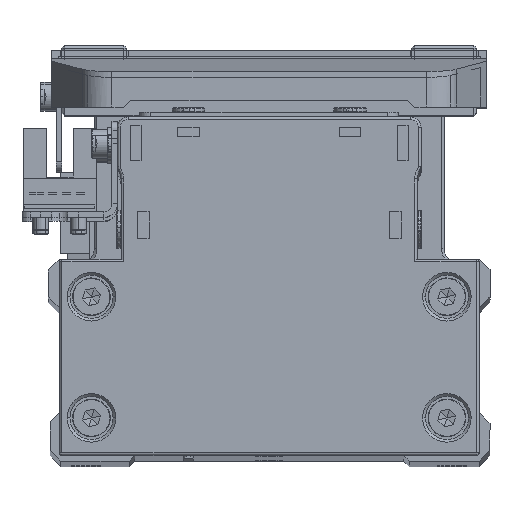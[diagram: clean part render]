
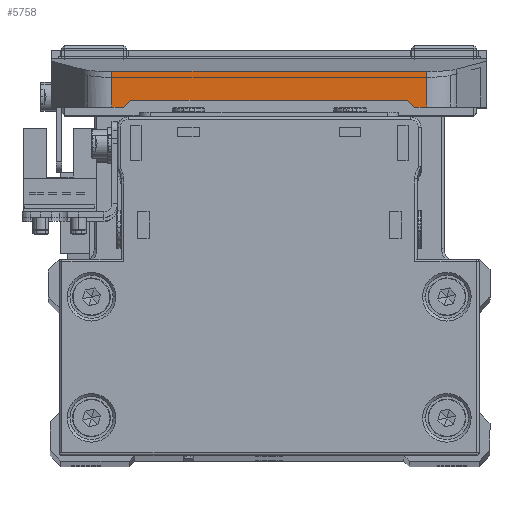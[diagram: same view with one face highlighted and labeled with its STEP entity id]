
A CAD part, top view. The second image highlights one B-rep face of the part: STEP entity #5758.
In plain terms, the highlighted planar face has unit normal (0, 0, 1) as drawn and (-1, 0, 0) by its records, which use the part's own axes.
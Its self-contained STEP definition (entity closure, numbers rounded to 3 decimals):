
#204 = CARTESIAN_POINT ( 'NONE',  ( -67.5, 9.3, 25.5 ) ) ;
#441 = VERTEX_POINT ( 'NONE', #26811 ) ;
#967 = DIRECTION ( 'NONE',  ( 0., 0., -1. ) ) ;
#1097 = VECTOR ( 'NONE', #17939, 1000. ) ;
#1196 = VERTEX_POINT ( 'NONE', #25360 ) ;
#2357 = CARTESIAN_POINT ( 'NONE',  ( -67.5, 10.6, -29.225 ) ) ;
#2700 = ORIENTED_EDGE ( 'NONE', *, *, #30843, .T. ) ;
#2823 = LINE ( 'NONE', #14721, #28324 ) ;
#3047 = AXIS2_PLACEMENT_3D ( 'NONE', #6695, #18614, #30552 ) ;
#3877 = DIRECTION ( 'NONE',  ( 0., 0., -1. ) ) ;
#5758 = ADVANCED_FACE ( 'NONE', ( #21551 ), #33464, .F. ) ;
#6015 = CARTESIAN_POINT ( 'NONE',  ( -67.5, 10.6, 40.4 ) ) ;
#6695 = CARTESIAN_POINT ( 'NONE',  ( -67.5, 10.6, 40.4 ) ) ;
#7091 = LINE ( 'NONE', #19009, #19080 ) ;
#7229 = VERTEX_POINT ( 'NONE', #9016 ) ;
#7268 = VECTOR ( 'NONE', #967, 1000. ) ;
#8303 = VECTOR ( 'NONE', #36758, 1000. ) ;
#9016 = CARTESIAN_POINT ( 'NONE',  ( -67.5, 10.6, -27. ) ) ;
#9466 = DIRECTION ( 'NONE',  ( 0., 0.655, -0.756 ) ) ;
#9841 = EDGE_CURVE ( 'NONE', #29204, #7229, #24317, .T. ) ;
#9998 = EDGE_CURVE ( 'NONE', #1196, #20847, #7091, .T. ) ;
#11992 = VERTEX_POINT ( 'NONE', #2357 ) ;
#12914 = LINE ( 'NONE', #24854, #8303 ) ;
#13701 = CARTESIAN_POINT ( 'NONE',  ( -67.5, 4., -29.225 ) ) ;
#14055 = LINE ( 'NONE', #25985, #34536 ) ;
#14721 = CARTESIAN_POINT ( 'NONE',  ( -67.5, 4., -29.225 ) ) ;
#15809 = LINE ( 'NONE', #27736, #7268 ) ;
#17305 = VECTOR ( 'NONE', #3877, 1000. ) ;
#17835 = VECTOR ( 'NONE', #9466, 1000. ) ;
#17939 = DIRECTION ( 'NONE',  ( 0., 0., -1. ) ) ;
#18607 = EDGE_CURVE ( 'NONE', #11992, #26806, #2823, .T. ) ;
#18614 = DIRECTION ( 'NONE',  ( 1., 0., 0. ) ) ;
#18705 = LINE ( 'NONE', #30645, #17305 ) ;
#19009 = CARTESIAN_POINT ( 'NONE',  ( -67.5, 10.6, 29.225 ) ) ;
#19080 = VECTOR ( 'NONE', #30943, 1000. ) ;
#19441 = ORIENTED_EDGE ( 'NONE', *, *, #9841, .T. ) ;
#20847 = VERTEX_POINT ( 'NONE', #38149 ) ;
#20980 = ORIENTED_EDGE ( 'NONE', *, *, #18607, .T. ) ;
#21188 = ORIENTED_EDGE ( 'NONE', *, *, #9998, .T. ) ;
#21551 = FACE_OUTER_BOUND ( 'NONE', #35887, .T. ) ;
#24002 = ORIENTED_EDGE ( 'NONE', *, *, #28780, .T. ) ;
#24317 = LINE ( 'NONE', #36227, #17835 ) ;
#24854 = CARTESIAN_POINT ( 'NONE',  ( -67.5, 9.3, 25.5 ) ) ;
#25360 = CARTESIAN_POINT ( 'NONE',  ( -67.5, 4., 29.225 ) ) ;
#25985 = CARTESIAN_POINT ( 'NONE',  ( -67.5, 10.6, 27. ) ) ;
#26659 = DIRECTION ( 'NONE',  ( 0., -1., 0. ) ) ;
#26806 = VERTEX_POINT ( 'NONE', #13701 ) ;
#26811 = CARTESIAN_POINT ( 'NONE',  ( -67.5, 10.6, 27. ) ) ;
#27736 = CARTESIAN_POINT ( 'NONE',  ( -67.5, 10.6, 40.4 ) ) ;
#28324 = VECTOR ( 'NONE', #26659, 1000. ) ;
#28780 = EDGE_CURVE ( 'NONE', #7229, #11992, #32784, .T. ) ;
#28919 = EDGE_CURVE ( 'NONE', #1196, #26806, #18705, .T. ) ;
#29204 = VERTEX_POINT ( 'NONE', #35283 ) ;
#29433 = ORIENTED_EDGE ( 'NONE', *, *, #28919, .F. ) ;
#30552 = DIRECTION ( 'NONE',  ( 0., 0., -1. ) ) ;
#30643 = EDGE_CURVE ( 'NONE', #34967, #29204, #12914, .T. ) ;
#30645 = CARTESIAN_POINT ( 'NONE',  ( -67.5, 4., 40.4 ) ) ;
#30843 = EDGE_CURVE ( 'NONE', #441, #34967, #14055, .T. ) ;
#30943 = DIRECTION ( 'NONE',  ( 0., 1., 0. ) ) ;
#31685 = ORIENTED_EDGE ( 'NONE', *, *, #35125, .T. ) ;
#32784 = LINE ( 'NONE', #6015, #1097 ) ;
#33464 = PLANE ( 'NONE',  #3047 ) ;
#34536 = VECTOR ( 'NONE', #37898, 1000. ) ;
#34967 = VERTEX_POINT ( 'NONE', #204 ) ;
#35125 = EDGE_CURVE ( 'NONE', #20847, #441, #15809, .T. ) ;
#35283 = CARTESIAN_POINT ( 'NONE',  ( -67.5, 9.3, -25.5 ) ) ;
#35887 = EDGE_LOOP ( 'NONE', ( #37567, #19441, #24002, #20980, #29433, #21188, #31685, #2700 ) ) ;
#36227 = CARTESIAN_POINT ( 'NONE',  ( -67.5, 10.6, -27. ) ) ;
#36758 = DIRECTION ( 'NONE',  ( 0., 0., -1. ) ) ;
#37567 = ORIENTED_EDGE ( 'NONE', *, *, #30643, .T. ) ;
#37898 = DIRECTION ( 'NONE',  ( 0., -0.655, -0.756 ) ) ;
#38149 = CARTESIAN_POINT ( 'NONE',  ( -67.5, 10.6, 29.225 ) ) ;
